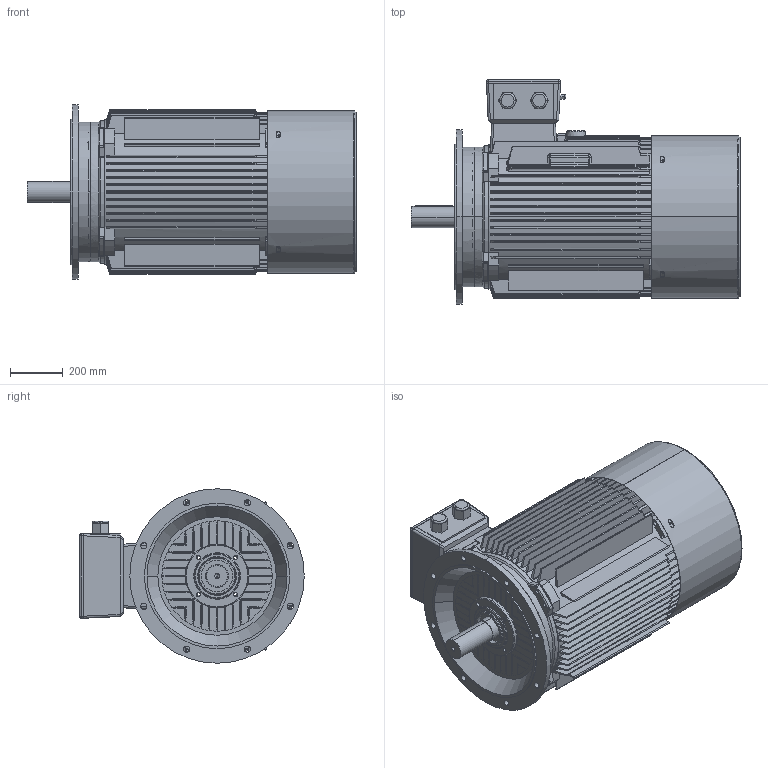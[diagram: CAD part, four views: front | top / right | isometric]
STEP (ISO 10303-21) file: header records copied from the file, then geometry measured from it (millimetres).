
FILE_DESCRIPTION((''),'2;1');
FILE_NAME('DELPHI_315S_4_8P_B5_ASM','2015-01-29T',('tecnicocad'),(''),'PRO/ENGINEER BY PARAMETRIC TECHNOLOGY CORPORATION, 2011330','PRO/ENGINEER BY PARAMETRIC TECHNOLOGY CORPORATION, 2011330','');
FILE_SCHEMA(('CONFIG_CONTROL_DESIGN'));
Products named in the file (19): PRT0009; PRT0010; PRT0012; ASM0004_ASM; PRT0014; PRT0017; ASM0005_ASM; PRT0018; PRT0019; ASM0006_ASM; PRT0020; PRT0022; PRT0024; PRT0026; PRT0027; ASM0007_ASM; ASM0003_ASM; ASM0002_ASM; DELPHI_315S_4_8P_B5_ASM
Assembly tree (18 placements, depth 5):
  DELPHI_315S_4_8P_B5_ASM
    ASM0002_ASM
      ASM0003_ASM
        PRT0009
        ASM0004_ASM
          PRT0010
          PRT0012
        ASM0005_ASM
          PRT0014
          PRT0017
        ASM0006_ASM
          PRT0018
          PRT0019
        PRT0020
        PRT0022
        PRT0024
        ASM0007_ASM
          PRT0026
          PRT0027
Bounding box: 1245 x 849.5 x 660 mm (x, y, z)
Volume: 72688453 mm3; surface area: 10717302 mm2
Topology: 12 solids, 14 shells, 3927 faces, 10979 edges, 7118 vertices
Faces by surface type: plane 1898, cylinder 1061, torus 515, cone 219, bspline 208, sphere 16, revolution 10
Entity records: 143851 total; most frequent: CARTESIAN_POINT 43867, ORIENTED_EDGE 21902, DIRECTION 19109, EDGE_CURVE 10951, VERTEX_POINT 7118, AXIS2_PLACEMENT_3D 6614, VECTOR 5871, LINE 5871
